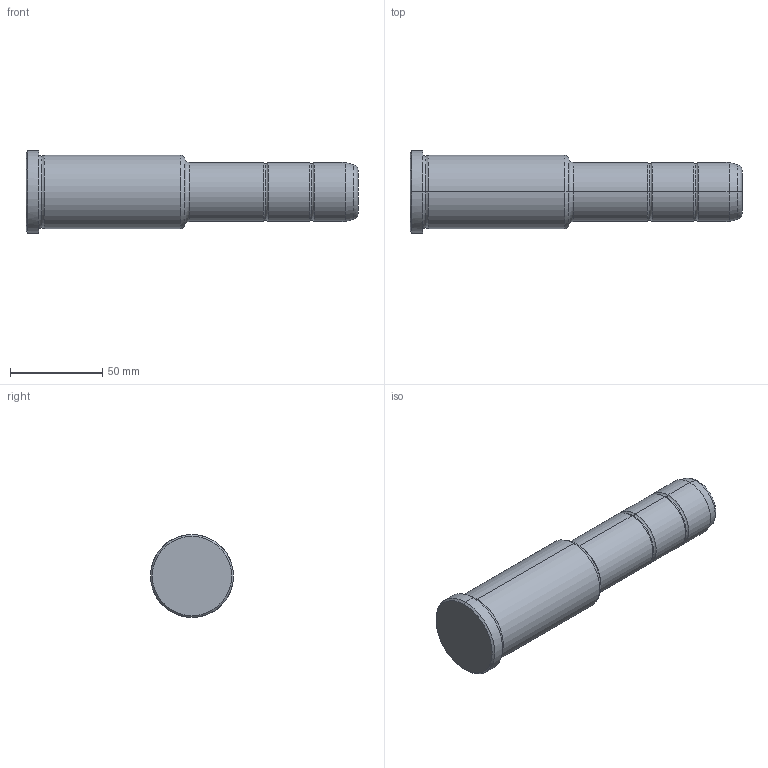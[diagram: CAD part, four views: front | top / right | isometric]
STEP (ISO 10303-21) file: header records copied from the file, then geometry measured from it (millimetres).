
FILE_DESCRIPTION(('CATIA V5 STEP Exchange'),'2;1');
FILE_NAME('C:\Users\Utente\Desktop\IO LAVORO\3D X SITO CF\X SITO\PLASTICA\351\351-32X86X180.stp','2021-09-10T12:27:57+00:00',('none'),('none'),'CATIA Version 5 Release 20 GA (IN-10)','CATIA V5 STEP AP203','none');
FILE_SCHEMA(('CONFIG_CONTROL_DESIGN'));
Length unit declared in the file: millimetre
Products named in the file (1): 351-32X86X180
Bounding box: 180 x 45 x 45 mm (x, y, z)
Volume: 184801.4 mm3; surface area: 23118.5 mm2
Topology: 1 solids, 1 shells, 36 faces, 102 edges, 70 vertices
Faces by surface type: torus 16, cylinder 10, cone 6, plane 4
Entity records: 1292 total; most frequent: CARTESIAN_POINT 321, ORIENTED_EDGE 204, DIRECTION 166, AXIS2_PLACEMENT_3D 115, EDGE_CURVE 102, CIRCLE 78, VERTEX_POINT 70, EDGE_LOOP 38
